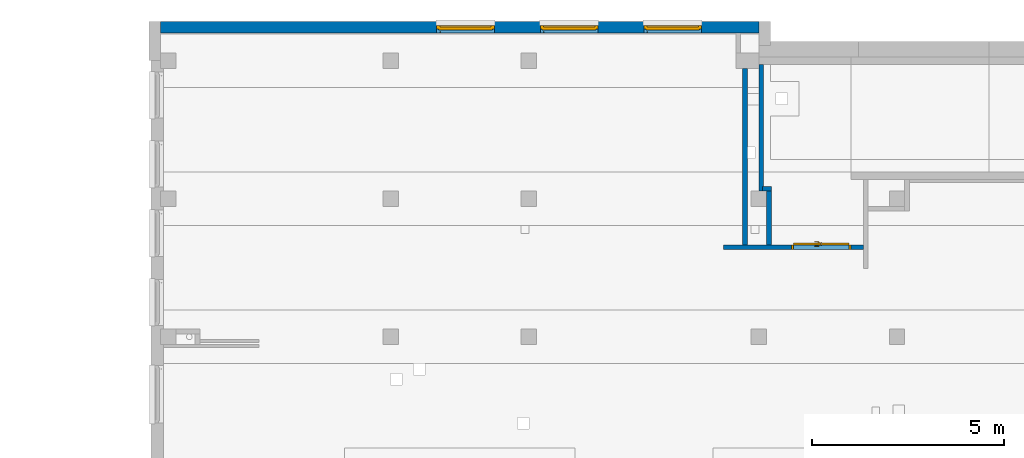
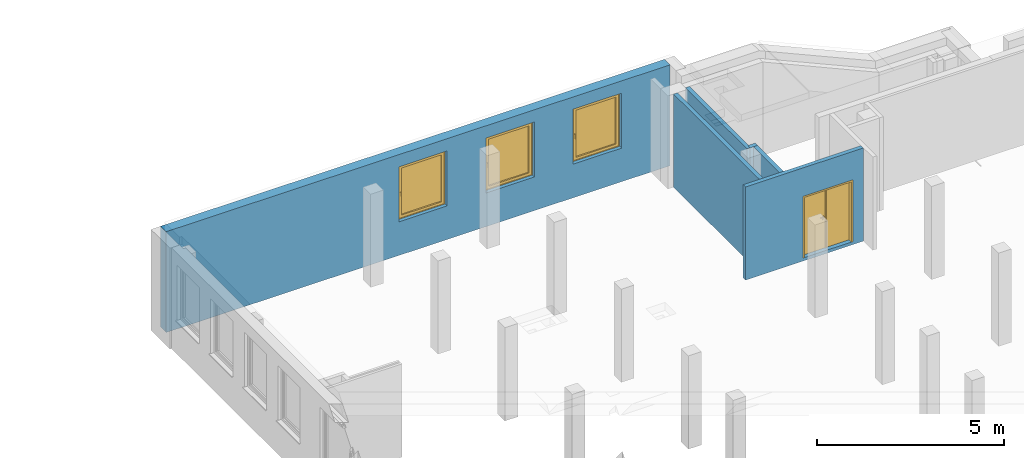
# One storey, part 10 of 27: 6 walls, 3 windows, 1 door, 4 openings.
"""IFC4 building model written with IfcOpenShell, lengths in metres."""

from ifc_helpers import new_model, entity, si_unit, converted_unit, derived_unit, frame, frame_2d, origin, origin_with_axes, place, context, subcontext, project, spatial, polyline, rectangle, outline, extrude, closed_shell, open_shell, surface_model, source, transform, mapped, material, layer, layer_set, layer_usage, type_object, element, fill, save


model = new_model("IFC4")

# Units and contexts
model_context = context("Model", 3, precision=1e-05, world=origin())
body_context = subcontext(model_context, "Body", "Model", "MODEL_VIEW")
ifc_project = project(units=[si_unit("LENGTHUNIT", "METRE"), si_unit("AREAUNIT", "SQUARE_METRE"), si_unit("VOLUMEUNIT", "CUBIC_METRE"), si_unit("MASSUNIT", "GRAM", prefix="KILO"), converted_unit("PLANEANGLEUNIT", "DEGREE", entity("IfcPlaneAngleMeasure", 0.0174532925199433), si_unit("PLANEANGLEUNIT", "RADIAN"), dimensions=[0, 0, 0, 0, 0, 0, 0]), derived_unit("THERMALTRANSMITTANCEUNIT", [(si_unit("POWERUNIT", "WATT"), 1), (si_unit("THERMODYNAMICTEMPERATUREUNIT", "KELVIN"), -1), (si_unit("LENGTHUNIT", "METRE"), -2)]), derived_unit("VOLUMETRICFLOWRATEUNIT", [(si_unit("LENGTHUNIT", "METRE"), 3), (converted_unit("TIMEUNIT", "hour", entity("IfcTimeMeasure", 3600.0), si_unit("TIMEUNIT", "SECOND"), dimensions=[0, 0, 1, 0, 0, 0, 0]), -1), (si_unit("LENGTHUNIT", "METRE"), -1)])], contexts=[model_context])

# Site, building, storey
site_placement = place(None, origin())
site = spatial("IfcSite", under=ifc_project, at=site_placement, Name="3. ASŘ", CompositionType="ELEMENT")
building_placement = place(site_placement, origin())
building = spatial("IfcBuilding", under=site, at=building_placement, Name="Pavilon C", CompositionType="ELEMENT")
storey_placement = place(building_placement, frame((0.0, 0.0, 10.5)))
storey = spatial("IfcBuildingStorey", under=building, at=storey_placement, Name="Půdorys 4.NP", CompositionType="ELEMENT", Elevation=10.5)

# Wall, openings, windows
ifc_material_1 = material(Name="ZELEZOBETONOVÁ KCE")
ifc_layer_1 = layer(ifc_material_1, 0.3)
ifc_layer_set_1 = layer_set([ifc_layer_1])
ifc_layer_usage_1 = layer_usage(ifc_layer_set_1, "AXIS2", "POSITIVE", 0.0)
wall_1_placement = place(storey_placement, frame((40.35, 33.42, -0.1), z_axis=(0.0, 0.0, 1.0), x_axis=(-1.0, 0.0, 0.0)))
wall_1 = element("IfcWall", 1, at=wall_1_placement, inside=storey, material=ifc_layer_usage_1, Name="ZELEZOBETONOVÁ KCE", context=body_context, shape_type="SweptSolid", body=[
    extrude(rectangle(XDim=15.6, YDim=0.3, at=frame_2d((7.8, 0.15), x_axis=(1.0, 0.0))), origin_with_axes(), (0.0, 0.0, 1.0), 3.3),
])
opening_1_placement = place(wall_1_placement, frame((6.9, 0.0, 1.1), z_axis=(0.0, 1.0, 0.0), x_axis=(0.0, 0.0, 1.0)))
opening_1 = element("IfcOpeningElement", 2, at=opening_1_placement, cuts=wall_1, Name="Okenní otvor", ObjectType="Opening", context=body_context, shape_type="SweptSolid", body=[
    extrude(outline(polyline([(0.0, 1.5), (1.8, 1.5), (1.8, 0.0), (0.0, 0.0), (0.0, 1.5)])), origin_with_axes(), (0.0, 0.0, 1.0), 0.3),
])
opening_2_placement = place(wall_1_placement, frame((4.2, 0.0, 1.1), z_axis=(0.0, 1.0, 0.0), x_axis=(0.0, 0.0, 1.0)))
opening_2 = element("IfcOpeningElement", 3, at=opening_2_placement, cuts=wall_1, Name="Okenní otvor", ObjectType="Opening", context=body_context, shape_type="SweptSolid", body=[
    extrude(outline(polyline([(0.0, 1.5), (1.8, 1.5), (1.8, 0.0), (0.0, 0.0), (0.0, 1.5)])), origin_with_axes(), (0.0, 0.0, 1.0), 0.3),
])
opening_3_placement = place(wall_1_placement, frame((1.5, 0.0, 1.1), z_axis=(0.0, 1.0, 0.0), x_axis=(0.0, 0.0, 1.0)))
opening_3 = element("IfcOpeningElement", 4, at=opening_3_placement, cuts=wall_1, Name="Okenní otvor", ObjectType="Opening", context=body_context, shape_type="SweptSolid", body=[
    extrude(outline(polyline([(0.0, 1.5), (1.8, 1.5), (1.8, 0.0), (0.0, 0.0), (0.0, 1.5)])), origin_with_axes(), (0.0, 0.0, 1.0), 0.3),
])
shared_shape_1 = source(origin_with_axes(), body_context, "Body", "SurfaceModel", [
    surface_model("IfcShellBasedSurfaceModel", [(0.0, 0.182, 1.8), (0.0, 0.182, -5.63337527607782e-18), (0.08, 0.182, -5.63337527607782e-18), (0.08, 0.182, 1.8), (0.0, 0.0899999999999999, 5.63337527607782e-18), (0.0, 0.0900000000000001, 1.8), (0.08, 0.0900000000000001, 1.8), (0.08, 0.0899999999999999, 5.63337527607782e-18)], [closed_shell([[[0, 1, 2, 3]], [[4, 5, 6, 7]], [[1, 0, 5, 4]], [[2, 1, 4, 7]], [[3, 2, 7, 6]], [[0, 3, 6, 5]]], orient=[[False], [False], [False], [False], [False], [False]])]),
    surface_model("IfcShellBasedSurfaceModel", [(1.42, 0.182, 1.8), (1.42, 0.182, -5.63337527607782e-18), (1.5, 0.182, -5.63337527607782e-18), (1.5, 0.182, 1.8), (1.42, 0.0899999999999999, 5.63337527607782e-18), (1.42, 0.0900000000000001, 1.8), (1.5, 0.0900000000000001, 1.8), (1.5, 0.0899999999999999, 5.63337527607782e-18)], [closed_shell([[[0, 1, 2, 3]], [[4, 5, 6, 7]], [[1, 0, 5, 4]], [[2, 1, 4, 7]], [[3, 2, 7, 6]], [[0, 3, 6, 5]]], orient=[[False], [False], [False], [False], [False], [False]])]),
    surface_model("IfcShellBasedSurfaceModel", [(0.08, 0.182, 0.08), (0.08, 0.182, -5.63337527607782e-18), (1.42, 0.182, -5.63337527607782e-18), (1.42, 0.182, 0.08), (0.08, 0.0899999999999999, 5.63337527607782e-18), (0.08, 0.0899999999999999, 0.08), (1.42, 0.0899999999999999, 0.08), (1.42, 0.0899999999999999, 5.63337527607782e-18)], [closed_shell([[[0, 1, 2, 3]], [[4, 5, 6, 7]], [[1, 0, 5, 4]], [[2, 1, 4, 7]], [[3, 2, 7, 6]], [[0, 3, 6, 5]]], orient=[[False], [False], [False], [False], [False], [False]])]),
    surface_model("IfcShellBasedSurfaceModel", [(0.08, 0.182, 1.8), (0.08, 0.182, 1.72), (1.42, 0.182, 1.72), (1.42, 0.182, 1.8), (0.08, 0.0900000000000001, 1.72), (0.08, 0.0900000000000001, 1.8), (1.42, 0.0900000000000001, 1.8), (1.42, 0.0900000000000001, 1.72)], [closed_shell([[[0, 1, 2, 3]], [[4, 5, 6, 7]], [[1, 0, 5, 4]], [[2, 1, 4, 7]], [[3, 2, 7, 6]], [[0, 3, 6, 5]]], orient=[[False], [False], [False], [False], [False], [False]])]),
    surface_model("IfcShellBasedSurfaceModel", [(0.05, 0.145, 1.75), (0.05, 0.145, 0.05), (0.13, 0.145, 0.05), (0.13, 0.145, 1.75), (0.05, 0.0599999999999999, 0.05), (0.05, 0.0600000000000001, 1.75), (0.13, 0.0600000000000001, 1.75), (0.13, 0.0599999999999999, 0.05)], [closed_shell([[[0, 1, 2, 3]], [[4, 5, 6, 7]], [[1, 0, 5, 4]], [[2, 1, 4, 7]], [[3, 2, 7, 6]], [[0, 3, 6, 5]]], orient=[[False], [False], [False], [False], [False], [False]])]),
    surface_model("IfcShellBasedSurfaceModel", [(1.37, 0.145, 1.75), (1.37, 0.145, 0.05), (1.45, 0.145, 0.05), (1.45, 0.145, 1.75), (1.37, 0.0599999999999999, 0.05), (1.37, 0.0600000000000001, 1.75), (1.45, 0.0600000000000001, 1.75), (1.45, 0.0599999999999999, 0.05)], [closed_shell([[[0, 1, 2, 3]], [[4, 5, 6, 7]], [[1, 0, 5, 4]], [[2, 1, 4, 7]], [[3, 2, 7, 6]], [[0, 3, 6, 5]]], orient=[[False], [False], [False], [False], [False], [False]])]),
    surface_model("IfcShellBasedSurfaceModel", [(0.13, 0.145, 0.13), (0.13, 0.145, 0.05), (1.37, 0.145, 0.05), (1.37, 0.145, 0.13), (0.13, 0.0599999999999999, 0.05), (0.13, 0.0599999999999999, 0.13), (1.37, 0.0599999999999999, 0.13), (1.37, 0.0599999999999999, 0.05)], [closed_shell([[[0, 1, 2, 3]], [[4, 5, 6, 7]], [[1, 0, 5, 4]], [[2, 1, 4, 7]], [[3, 2, 7, 6]], [[0, 3, 6, 5]]], orient=[[False], [False], [False], [False], [False], [False]])]),
    surface_model("IfcShellBasedSurfaceModel", [(0.13, 0.145, 1.75), (0.13, 0.145, 1.67), (1.37, 0.145, 1.67), (1.37, 0.145, 1.75), (0.13, 0.0600000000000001, 1.67), (0.13, 0.0600000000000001, 1.75), (1.37, 0.0600000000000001, 1.75), (1.37, 0.0600000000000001, 1.67)], [closed_shell([[[0, 1, 2, 3]], [[4, 5, 6, 7]], [[1, 0, 5, 4]], [[2, 1, 4, 7]], [[3, 2, 7, 6]], [[0, 3, 6, 5]]], orient=[[False], [False], [False], [False], [False], [False]])]),
    surface_model("IfcShellBasedSurfaceModel", [(0.0775, 0.06, 0.92), (0.0775, 0.06, 0.88), (0.1025, 0.06, 0.88), (0.1025, 0.06, 0.92), (0.0775, 0.05, 0.88), (0.0775, 0.05, 0.92), (0.1025, 0.05, 0.92), (0.1025, 0.05, 0.88)], [closed_shell([[[0, 1, 2, 3]], [[4, 5, 6, 7]], [[1, 0, 5, 4]], [[2, 1, 4, 7]], [[3, 2, 7, 6]], [[0, 3, 6, 5]]], orient=[[False], [False], [False], [False], [False], [False]])]),
    surface_model("IfcShellBasedSurfaceModel", [(0.1, 0.05, 0.9), (0.0986602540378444, 0.05, 0.905), (0.095, 0.05, 0.908660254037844), (0.09, 0.05, 0.91), (0.085, 0.05, 0.908660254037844), (0.0813397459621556, 0.05, 0.905), (0.08, 0.05, 0.9), (0.0813397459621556, 0.05, 0.895), (0.085, 0.05, 0.891339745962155), (0.09, 0.05, 0.89), (0.095, 0.05, 0.891339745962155), (0.0986602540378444, 0.05, 0.895), (0.1, 0.01, 0.9), (0.0986602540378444, 0.00500000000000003, 0.905), (0.095, 0.00133974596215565, 0.908660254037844), (0.09, 2.8421709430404e-17, 0.91), (0.085, 0.00133974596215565, 0.908660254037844), (0.0813397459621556, 0.00500000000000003, 0.905), (0.08, 0.01, 0.9), (0.0813397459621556, 0.015, 0.895), (0.085, 0.0186602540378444, 0.891339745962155), (0.09, 0.02, 0.89), (0.095, 0.0186602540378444, 0.891339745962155), (0.0986602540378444, 0.015, 0.895), (0.1, 0.01, 0.785), (0.0986602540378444, 0.005, 0.785), (0.095, 0.00133974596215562, 0.785), (0.09, 0.0, 0.785), (0.085, 0.00133974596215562, 0.785), (0.0813397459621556, 0.005, 0.785), (0.08, 0.01, 0.785), (0.0813397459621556, 0.015, 0.785), (0.085, 0.0186602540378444, 0.785), (0.09, 0.02, 0.785), (0.095, 0.0186602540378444, 0.785), (0.0986602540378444, 0.015, 0.785)], [open_shell([[[0, 1, 2, 3, 4, 5, 6, 7, 8, 9, 10, 11]], [[0, 12, 13, 1]], [[1, 13, 14, 2]], [[2, 14, 15, 3]], [[3, 15, 16, 4]], [[4, 16, 17, 5]], [[5, 17, 18, 6]], [[6, 18, 19, 7]], [[7, 19, 20, 8]], [[8, 20, 21, 9]], [[9, 21, 22, 10]], [[10, 22, 23, 11]], [[11, 23, 12, 0]], [[12, 24, 25, 13]], [[13, 25, 26, 14]], [[14, 26, 27, 15]], [[15, 27, 28, 16]], [[16, 28, 29, 17]], [[17, 29, 30, 18]], [[18, 30, 31, 19]], [[19, 31, 32, 20]], [[20, 32, 33, 21]], [[21, 33, 34, 22]], [[22, 34, 35, 23]], [[23, 35, 24, 12]]], orient=[[False], [False], [False], [False], [False], [False], [False], [False], [False], [False], [False], [False], [False], [False], [False], [False], [False], [False], [False], [False], [False], [False], [False], [False], [False]])]),
    surface_model("IfcShellBasedSurfaceModel", [(0.13, 0.1025, 0.13), (1.37, 0.1025, 0.13), (1.37, 0.1025, 1.67), (0.13, 0.1025, 1.67)], [open_shell([[[0, 1, 2, 3]]], orient=[[False]])]),
])
window_1_placement = place(opening_1_placement, frame((0.0, 1.5, 0.282), z_axis=(1.0, 0.0, 0.0), x_axis=(0.0, -0.999999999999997, 2.4492935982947e-16)))
window_1 = element("IfcWindow", 5, at=window_1_placement, inside=storey, Name="O06", OverallHeight=1.8, OverallWidth=1.5, PartitioningType="USERDEFINED", PredefinedType="WINDOW", context=body_context, shape_type="MappedRepresentation", body=[
    mapped(shared_shape_1, transform((0.0, 0.0, 0.0), x_axis=(1.0, 0.0, 0.0), y_axis=(0.0, 1.0, 0.0), z_axis=(0.0, 0.0, 1.0), scale=0.999999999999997)),
])
fill(opening_1, window_1)
window_2_placement = place(opening_2_placement, frame((0.0, 1.5, 0.282), z_axis=(1.0, 0.0, 0.0), x_axis=(0.0, -1.0, 2.44929359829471e-16)))
window_2 = element("IfcWindow", 6, at=window_2_placement, inside=storey, Name="O06", OverallHeight=1.8, OverallWidth=1.5, PartitioningType="USERDEFINED", PredefinedType="WINDOW", context=body_context, shape_type="MappedRepresentation", body=[
    mapped(shared_shape_1, transform((0.0, 0.0, 0.0), x_axis=(1.0, 0.0, 0.0), y_axis=(0.0, 1.0, 0.0), z_axis=(0.0, 0.0, 1.0), scale=1.0)),
])
fill(opening_2, window_2)
window_3_placement = place(opening_3_placement, frame((0.0, 1.5, 0.282), z_axis=(1.0, 0.0, 0.0), x_axis=(0.0, -1.0, 2.44929359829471e-16)))
window_3 = element("IfcWindow", 7, at=window_3_placement, inside=storey, Name="O06", OverallHeight=1.8, OverallWidth=1.5, PartitioningType="USERDEFINED", PredefinedType="WINDOW", context=body_context, shape_type="MappedRepresentation", body=[
    mapped(shared_shape_1, transform((0.0, 0.0, 0.0), x_axis=(1.0, 0.0, 0.0), y_axis=(0.0, 1.0, 0.0), z_axis=(0.0, 0.0, 1.0), scale=1.0)),
])
fill(opening_3, window_3)

# Wall
ifc_material_2 = material(Name="ZDIVO Z CDm")
ifc_layer_2 = layer(ifc_material_2, 0.125)
ifc_layer_set_2 = layer_set([ifc_layer_2])
ifc_layer_usage_2 = layer_usage(ifc_layer_set_2, "AXIS2", "POSITIVE", 0.0)
wall_2_placement = place(storey_placement, frame((40.4449417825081, 29.0, -0.1)))
element("IfcWall", 8, at=wall_2_placement, inside=storey, material=ifc_layer_usage_2, Name="ZDIVO Z CDm", context=body_context, shape_type="SweptSolid", body=[
    extrude(rectangle(XDim=0.230058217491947, YDim=0.125, at=frame_2d((0.115029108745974, 0.0625), x_axis=(1.0, 0.0))), origin_with_axes(), (0.0, 0.0, 1.0), 3.05),
])

# Wall, opening, door
ifc_material_3 = material(Name="ZDIVO Z CDm")
ifc_layer_3 = layer(ifc_material_3, 0.125)
ifc_layer_set_3 = layer_set([ifc_layer_3])
ifc_layer_usage_3 = layer_usage(ifc_layer_set_3, "AXIS2", "POSITIVE", 0.0)
wall_3_placement = place(storey_placement, frame((43.075, 27.6, -0.1), z_axis=(0.0, 0.0, 1.0), x_axis=(-1.0, 0.0, 0.0)))
wall_3 = element("IfcWall", 9, at=wall_3_placement, inside=storey, material=ifc_layer_usage_3, Name="ZDIVO Z CDm", context=body_context, shape_type="SweptSolid", body=[
    extrude(rectangle(XDim=3.65, YDim=0.125, at=frame_2d((1.825, 0.0625), x_axis=(1.0, 0.0))), origin_with_axes(), (0.0, 0.0, 1.0), 3.05),
])
opening_4_placement = place(wall_3_placement, frame((0.325, 0.0, 0.1), z_axis=(0.0, 1.0, 0.0), x_axis=(0.0, 0.0, 1.0)))
opening_4 = element("IfcOpeningElement", 10, at=opening_4_placement, cuts=wall_3, Name="Dveřní otvor", ObjectType="Opening", context=body_context, shape_type="SweptSolid", body=[
    extrude(outline(polyline([(0.0, 1.55), (2.02, 1.55), (2.02, 0.0), (0.0, 0.0), (0.0, 1.55)])), origin_with_axes(), (0.0, 0.0, 1.0), 0.125),
])
door_type = type_object("IfcDoorType", Name="D501", OperationType="NOTDEFINED", ParameterTakesPrecedence=False, PredefinedType="DOOR")
shared_shape_2 = source(origin_with_axes(), body_context, "Body", "SurfaceModel", [
    surface_model("IfcShellBasedSurfaceModel", [(0.0, 0.125, 2.02), (0.0, 0.125, -7.65404249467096e-18), (0.05, 0.125, -7.65404249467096e-18), (0.05, 0.125, 2.02), (0.0, 0.0, 7.65404249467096e-18), (0.0, 2.41584530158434e-16, 2.02), (0.05, 2.41584530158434e-16, 2.02), (0.05, 0.0, 7.65404249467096e-18)], [closed_shell([[[0, 1, 2, 3]], [[4, 5, 6, 7]], [[1, 0, 5, 4]], [[2, 1, 4, 7]], [[3, 2, 7, 6]], [[0, 3, 6, 5]]], orient=[[False], [False], [False], [False], [False], [False]])]),
    surface_model("IfcShellBasedSurfaceModel", [(1.5, 0.125, 2.02), (1.5, 0.125, -7.65404249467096e-18), (1.55, 0.125, -7.65404249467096e-18), (1.55, 0.125, 2.02), (1.5, 0.0, 7.65404249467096e-18), (1.5, 2.41584530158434e-16, 2.02), (1.55, 2.41584530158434e-16, 2.02), (1.55, 0.0, 7.65404249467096e-18)], [closed_shell([[[0, 1, 2, 3]], [[4, 5, 6, 7]], [[1, 0, 5, 4]], [[2, 1, 4, 7]], [[3, 2, 7, 6]], [[0, 3, 6, 5]]], orient=[[False], [False], [False], [False], [False], [False]])]),
    surface_model("IfcShellBasedSurfaceModel", [(0.05, 0.125, 2.02), (0.05, 0.125, 1.97), (1.5, 0.125, 1.97), (1.5, 0.125, 2.02), (0.05, 2.41584530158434e-16, 1.97), (0.05, 2.41584530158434e-16, 2.02), (1.5, 2.41584530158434e-16, 2.02), (1.5, 2.41584530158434e-16, 1.97)], [closed_shell([[[0, 1, 2, 3]], [[4, 5, 6, 7]], [[1, 0, 5, 4]], [[2, 1, 4, 7]], [[3, 2, 7, 6]], [[0, 3, 6, 5]]], orient=[[False], [False], [False], [False], [False], [False]])]),
    surface_model("IfcShellBasedSurfaceModel", [(0.05, 0.165, 1.97), (0.05, 0.165, -1.25526296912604e-17), (0.7745, 0.165, -1.25526296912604e-17), (0.7745, 0.165, 1.97), (0.05, 0.125, -7.65404249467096e-18), (0.05, 0.125, 1.97), (0.7745, 0.125, 1.97), (0.7745, 0.125, -7.65404249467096e-18)], [closed_shell([[[0, 1, 2, 3]], [[4, 5, 6, 7]], [[1, 0, 5, 4]], [[2, 1, 4, 7]], [[3, 2, 7, 6]], [[0, 3, 6, 5]]], orient=[[False], [False], [False], [False], [False], [False]])]),
    surface_model("IfcShellBasedSurfaceModel", [(0.7545, 0.165, 1.97), (0.7945, 0.165, 1.97), (0.7945, 0.165, -1.25526296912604e-17), (0.7545, 0.165, -1.25526296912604e-17), (0.7545, 0.185, -1.50019232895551e-17), (0.7945, 0.185, -1.50019232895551e-17), (0.7945, 0.185, 1.97), (0.7545, 0.185, 1.97)], [closed_shell([[[0, 1, 2, 3]], [[4, 5, 6, 7]], [[3, 4, 7, 0]], [[2, 5, 4, 3]], [[1, 6, 5, 2]], [[0, 7, 6, 1]]], orient=[[False], [False], [False], [False], [False], [False]])]),
    surface_model("IfcShellBasedSurfaceModel", [(0.733315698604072, 0.125, 0.93625), (0.737, 0.125, 0.95), (0.733315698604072, 0.125, 0.96375), (0.72325, 0.125, 0.973815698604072), (0.7095, 0.125, 0.9775), (0.69575, 0.125, 0.973815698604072), (0.685684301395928, 0.125, 0.96375), (0.682, 0.125, 0.95), (0.685684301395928, 0.125, 0.93625), (0.69575, 0.125, 0.926184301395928), (0.7095, 0.125, 0.9225), (0.72325, 0.125, 0.926184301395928), (0.737, 0.1125, 0.95), (0.733315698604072, 0.1125, 0.93625), (0.72325, 0.1125, 0.926184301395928), (0.7095, 0.1125, 0.9225), (0.69575, 0.1125, 0.926184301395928), (0.685684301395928, 0.1125, 0.93625), (0.682, 0.1125, 0.95), (0.685684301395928, 0.1125, 0.96375), (0.69575, 0.1125, 0.973815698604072), (0.7095, 0.1125, 0.9775), (0.72325, 0.1125, 0.973815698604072), (0.733315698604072, 0.1125, 0.96375)], [closed_shell([[[0, 1, 2, 3, 4, 5, 6, 7, 8, 9, 10, 11]], [[12, 13, 14, 15, 16, 17, 18, 19, 20, 21, 22, 23]], [[1, 0, 13, 12]], [[2, 1, 12, 23]], [[3, 2, 23, 22]], [[4, 3, 22, 21]], [[5, 4, 21, 20]], [[6, 5, 20, 19]], [[7, 6, 19, 18]], [[8, 7, 18, 17]], [[9, 8, 17, 16]], [[10, 9, 16, 15]], [[11, 10, 15, 14]], [[0, 11, 14, 13]]], orient=[[False], [False], [False], [False], [False], [False], [False], [False], [False], [False], [False], [False], [False], [False]])]),
    surface_model("IfcShellBasedSurfaceModel", [(0.733315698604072, 0.125, 1.03625), (0.737, 0.125, 1.05), (0.733315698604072, 0.125, 1.06375), (0.72325, 0.125, 1.07381569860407), (0.7095, 0.125, 1.0775), (0.69575, 0.125, 1.07381569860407), (0.685684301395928, 0.125, 1.06375), (0.682, 0.125, 1.05), (0.685684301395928, 0.125, 1.03625), (0.69575, 0.125, 1.02618430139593), (0.7095, 0.125, 1.0225), (0.72325, 0.125, 1.02618430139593), (0.737, 0.1125, 1.05), (0.733315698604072, 0.1125, 1.03625), (0.72325, 0.1125, 1.02618430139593), (0.7095, 0.1125, 1.0225), (0.69575, 0.1125, 1.02618430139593), (0.685684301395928, 0.1125, 1.03625), (0.682, 0.1125, 1.05), (0.685684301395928, 0.1125, 1.06375), (0.69575, 0.1125, 1.07381569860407), (0.7095, 0.1125, 1.0775), (0.72325, 0.1125, 1.07381569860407), (0.733315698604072, 0.1125, 1.06375)], [closed_shell([[[0, 1, 2, 3, 4, 5, 6, 7, 8, 9, 10, 11]], [[12, 13, 14, 15, 16, 17, 18, 19, 20, 21, 22, 23]], [[1, 0, 13, 12]], [[2, 1, 12, 23]], [[3, 2, 23, 22]], [[4, 3, 22, 21]], [[5, 4, 21, 20]], [[6, 5, 20, 19]], [[7, 6, 19, 18]], [[8, 7, 18, 17]], [[9, 8, 17, 16]], [[10, 9, 16, 15]], [[11, 10, 15, 14]], [[0, 11, 14, 13]]], orient=[[False], [False], [False], [False], [False], [False], [False], [False], [False], [False], [False], [False], [False], [False]])]),
    surface_model("IfcShellBasedSurfaceModel", [(0.7095, 0.125, 1.06), (0.7045, 0.125, 1.05866025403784), (0.700839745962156, 0.125, 1.055), (0.6995, 0.125, 1.05), (0.700839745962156, 0.125, 1.045), (0.7045, 0.125, 1.04133974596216), (0.7095, 0.125, 1.04), (0.7145, 0.125, 1.04133974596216), (0.718160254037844, 0.125, 1.045), (0.7195, 0.125, 1.05), (0.718160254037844, 0.125, 1.055), (0.7145, 0.125, 1.05866025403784), (0.7145, 0.0800000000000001, 1.05866025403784), (0.7095, 0.0850000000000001, 1.06), (0.718160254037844, 0.0763397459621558, 1.055), (0.7195, 0.0750000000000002, 1.05), (0.718160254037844, 0.0763397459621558, 1.045), (0.7145, 0.0800000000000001, 1.04133974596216), (0.7095, 0.0850000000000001, 1.04), (0.7045, 0.0900000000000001, 1.04133974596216), (0.700839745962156, 0.0936602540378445, 1.045), (0.6995, 0.0950000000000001, 1.05), (0.700839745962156, 0.0936602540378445, 1.055), (0.7045, 0.0900000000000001, 1.05866025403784), (0.5945, 0.0800000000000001, 1.05866025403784), (0.5945, 0.0850000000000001, 1.06), (0.5945, 0.0763397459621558, 1.055), (0.5945, 0.0750000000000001, 1.05), (0.5945, 0.0763397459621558, 1.045), (0.5945, 0.0800000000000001, 1.04133974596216), (0.5945, 0.0850000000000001, 1.04), (0.5945, 0.0900000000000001, 1.04133974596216), (0.5945, 0.0936602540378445, 1.045), (0.5945, 0.0950000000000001, 1.05), (0.5945, 0.0936602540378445, 1.055), (0.5945, 0.0900000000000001, 1.05866025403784)], [open_shell([[[0, 1, 2, 3, 4, 5, 6, 7, 8, 9, 10, 11]], [[0, 11, 12, 13]], [[11, 10, 14, 12]], [[10, 9, 15, 14]], [[9, 8, 16, 15]], [[8, 7, 17, 16]], [[7, 6, 18, 17]], [[6, 5, 19, 18]], [[5, 4, 20, 19]], [[4, 3, 21, 20]], [[3, 2, 22, 21]], [[2, 1, 23, 22]], [[1, 0, 13, 23]], [[13, 12, 24, 25]], [[12, 14, 26, 24]], [[14, 15, 27, 26]], [[15, 16, 28, 27]], [[16, 17, 29, 28]], [[17, 18, 30, 29]], [[18, 19, 31, 30]], [[19, 20, 32, 31]], [[20, 21, 33, 32]], [[21, 22, 34, 33]], [[22, 23, 35, 34]], [[23, 13, 25, 35]]], orient=[[False], [False], [False], [False], [False], [False], [False], [False], [False], [False], [False], [False], [False], [False], [False], [False], [False], [False], [False], [False], [False], [False], [False], [False], [False]])]),
    surface_model("IfcShellBasedSurfaceModel", [(0.733315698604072, 0.165, 0.93625), (0.72325, 0.165, 0.926184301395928), (0.7095, 0.165, 0.9225), (0.69575, 0.165, 0.926184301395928), (0.685684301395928, 0.165, 0.93625), (0.682, 0.165, 0.95), (0.685684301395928, 0.165, 0.96375), (0.69575, 0.165, 0.973815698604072), (0.7095, 0.165, 0.9775), (0.72325, 0.165, 0.973815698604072), (0.733315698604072, 0.165, 0.96375), (0.737, 0.165, 0.95), (0.737, 0.1775, 0.95), (0.733315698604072, 0.1775, 0.96375), (0.72325, 0.1775, 0.973815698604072), (0.7095, 0.1775, 0.9775), (0.69575, 0.1775, 0.973815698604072), (0.685684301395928, 0.1775, 0.96375), (0.682, 0.1775, 0.95), (0.685684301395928, 0.1775, 0.93625), (0.69575, 0.1775, 0.926184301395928), (0.7095, 0.1775, 0.9225), (0.72325, 0.1775, 0.926184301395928), (0.733315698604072, 0.1775, 0.93625)], [closed_shell([[[0, 1, 2, 3, 4, 5, 6, 7, 8, 9, 10, 11]], [[12, 13, 14, 15, 16, 17, 18, 19, 20, 21, 22, 23]], [[11, 12, 23, 0]], [[10, 13, 12, 11]], [[9, 14, 13, 10]], [[8, 15, 14, 9]], [[7, 16, 15, 8]], [[6, 17, 16, 7]], [[5, 18, 17, 6]], [[4, 19, 18, 5]], [[3, 20, 19, 4]], [[2, 21, 20, 3]], [[1, 22, 21, 2]], [[0, 23, 22, 1]]], orient=[[False], [False], [False], [False], [False], [False], [False], [False], [False], [False], [False], [False], [False], [False]])]),
    surface_model("IfcShellBasedSurfaceModel", [(0.733315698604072, 0.165, 1.03625), (0.72325, 0.165, 1.02618430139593), (0.7095, 0.165, 1.0225), (0.69575, 0.165, 1.02618430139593), (0.685684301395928, 0.165, 1.03625), (0.682, 0.165, 1.05), (0.685684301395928, 0.165, 1.06375), (0.69575, 0.165, 1.07381569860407), (0.7095, 0.165, 1.0775), (0.72325, 0.165, 1.07381569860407), (0.733315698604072, 0.165, 1.06375), (0.737, 0.165, 1.05), (0.737, 0.1775, 1.05), (0.733315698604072, 0.1775, 1.06375), (0.72325, 0.1775, 1.07381569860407), (0.7095, 0.1775, 1.0775), (0.69575, 0.1775, 1.07381569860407), (0.685684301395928, 0.1775, 1.06375), (0.682, 0.1775, 1.05), (0.685684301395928, 0.1775, 1.03625), (0.69575, 0.1775, 1.02618430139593), (0.7095, 0.1775, 1.0225), (0.72325, 0.1775, 1.02618430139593), (0.733315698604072, 0.1775, 1.03625)], [closed_shell([[[0, 1, 2, 3, 4, 5, 6, 7, 8, 9, 10, 11]], [[12, 13, 14, 15, 16, 17, 18, 19, 20, 21, 22, 23]], [[11, 12, 23, 0]], [[10, 13, 12, 11]], [[9, 14, 13, 10]], [[8, 15, 14, 9]], [[7, 16, 15, 8]], [[6, 17, 16, 7]], [[5, 18, 17, 6]], [[4, 19, 18, 5]], [[3, 20, 19, 4]], [[2, 21, 20, 3]], [[1, 22, 21, 2]], [[0, 23, 22, 1]]], orient=[[False], [False], [False], [False], [False], [False], [False], [False], [False], [False], [False], [False], [False], [False]])]),
    surface_model("IfcShellBasedSurfaceModel", [(0.7095, 0.165, 1.06), (0.7145, 0.165, 1.05866025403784), (0.718160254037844, 0.165, 1.055), (0.7195, 0.165, 1.05), (0.718160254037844, 0.165, 1.045), (0.7145, 0.165, 1.04133974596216), (0.7095, 0.165, 1.04), (0.7045, 0.165, 1.04133974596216), (0.700839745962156, 0.165, 1.045), (0.6995, 0.165, 1.05), (0.700839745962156, 0.165, 1.055), (0.7045, 0.165, 1.05866025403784), (0.7095, 0.205, 1.06), (0.7145, 0.21, 1.05866025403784), (0.718160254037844, 0.213660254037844, 1.055), (0.7195, 0.215, 1.05), (0.718160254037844, 0.213660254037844, 1.045), (0.7145, 0.21, 1.04133974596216), (0.7095, 0.205, 1.04), (0.7045, 0.2, 1.04133974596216), (0.700839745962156, 0.196339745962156, 1.045), (0.6995, 0.195, 1.05), (0.700839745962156, 0.196339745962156, 1.055), (0.7045, 0.2, 1.05866025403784), (0.5945, 0.205, 1.06), (0.5945, 0.21, 1.05866025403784), (0.5945, 0.213660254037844, 1.055), (0.5945, 0.215, 1.05), (0.5945, 0.213660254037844, 1.045), (0.5945, 0.21, 1.04133974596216), (0.5945, 0.205, 1.04), (0.5945, 0.2, 1.04133974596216), (0.5945, 0.196339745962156, 1.045), (0.5945, 0.195, 1.05), (0.5945, 0.196339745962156, 1.055), (0.5945, 0.2, 1.05866025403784)], [open_shell([[[0, 1, 2, 3, 4, 5, 6, 7, 8, 9, 10, 11]], [[0, 12, 13, 1]], [[1, 13, 14, 2]], [[2, 14, 15, 3]], [[3, 15, 16, 4]], [[4, 16, 17, 5]], [[5, 17, 18, 6]], [[6, 18, 19, 7]], [[7, 19, 20, 8]], [[8, 20, 21, 9]], [[9, 21, 22, 10]], [[10, 22, 23, 11]], [[11, 23, 12, 0]], [[12, 24, 25, 13]], [[13, 25, 26, 14]], [[14, 26, 27, 15]], [[15, 27, 28, 16]], [[16, 28, 29, 17]], [[17, 29, 30, 18]], [[18, 30, 31, 19]], [[19, 31, 32, 20]], [[20, 32, 33, 21]], [[21, 33, 34, 22]], [[22, 34, 35, 23]], [[23, 35, 24, 12]]], orient=[[False], [False], [False], [False], [False], [False], [False], [False], [False], [False], [False], [False], [False], [False], [False], [False], [False], [False], [False], [False], [False], [False], [False], [False], [False]])]),
    surface_model("IfcShellBasedSurfaceModel", [(0.7755, 0.165, 1.97), (0.7755, 0.165, -1.25526296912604e-17), (1.5, 0.165, -1.25526296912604e-17), (1.5, 0.165, 1.97), (0.7755, 0.125, -7.65404249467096e-18), (0.7755, 0.125, 1.97), (1.5, 0.125, 1.97), (1.5, 0.125, -7.65404249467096e-18)], [closed_shell([[[0, 1, 2, 3]], [[4, 5, 6, 7]], [[1, 0, 5, 4]], [[2, 1, 4, 7]], [[3, 2, 7, 6]], [[0, 3, 6, 5]]], orient=[[False], [False], [False], [False], [False], [False]])]),
    surface_model("IfcShellBasedSurfaceModel", [(0.7555, 0.125, 1.97), (0.7555, 0.125, -7.65404249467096e-18), (0.7955, 0.125, -7.65404249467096e-18), (0.7955, 0.125, 1.97), (0.7555, 0.105, -5.20474889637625e-18), (0.7555, 0.105, 1.97), (0.7955, 0.105, 1.97), (0.7955, 0.105, -5.20474889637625e-18)], [closed_shell([[[0, 1, 2, 3]], [[4, 5, 6, 7]], [[1, 0, 5, 4]], [[2, 1, 4, 7]], [[3, 2, 7, 6]], [[0, 3, 6, 5]]], orient=[[False], [False], [False], [False], [False], [False]])]),
])
door_placement = place(opening_4_placement, frame((0.0, 1.55, 0.125), z_axis=(1.0, 0.0, 0.0), x_axis=(0.0, -1.0, 2.44929359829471e-16)))
door = element("IfcDoor", 11, at=door_placement, inside=storey, type_object=door_type, Name="D501", OverallHeight=2.02, OverallWidth=1.55, context=body_context, shape_type="MappedRepresentation", body=[
    mapped(shared_shape_2, transform((0.0, 0.0, 0.0), x_axis=(1.0, 0.0, 0.0), y_axis=(0.0, 1.0, 0.0), z_axis=(0.0, 0.0, 1.0), scale=1.0)),
])
fill(opening_4, door)

# Walls
ifc_material_4 = material(Name="ZDIVO Z CDm")
ifc_layer_4 = layer(ifc_material_4, 0.125)
ifc_layer_set_4 = layer_set([ifc_layer_4])
ifc_layer_usage_4 = layer_usage(ifc_layer_set_4, "AXIS2", "POSITIVE", 0.0)
wall_4_placement = place(storey_placement, frame((40.55, 29.0, -0.1), z_axis=(0.0, 0.0, 1.0), x_axis=(0.0, -1.0, 0.0)))
element("IfcWall", 12, at=wall_4_placement, inside=storey, material=ifc_layer_usage_4, Name="ZDIVO Z CDm", context=body_context, shape_type="SweptSolid", body=[
    extrude(rectangle(XDim=1.40000000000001, YDim=0.125, at=frame_2d((0.700000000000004, 0.0625), x_axis=(1.0, 0.0))), origin_with_axes(), (0.0, 0.0, 1.0), 3.05),
])
ifc_material_5 = material(Name="ZDIVO Z CDm")
ifc_layer_5 = layer(ifc_material_5, 0.125)
ifc_layer_set_5 = layer_set([ifc_layer_5])
ifc_layer_usage_5 = layer_usage(ifc_layer_set_5, "AXIS2", "POSITIVE", 0.0)
wall_5_placement = place(storey_placement, frame((40.05, 27.6, -0.1), z_axis=(0.0, 0.0, 1.0), x_axis=(0.0, 1.0, 0.0)))
element("IfcWall", 13, at=wall_5_placement, inside=storey, material=ifc_layer_usage_5, Name="ZDIVO Z CDm", context=body_context, shape_type="SweptSolid", body=[
    extrude(rectangle(XDim=4.6, YDim=0.125, at=frame_2d((2.3, 0.0625), x_axis=(1.0, 0.0))), origin_with_axes(), (0.0, 0.0, 1.0), 3.05),
])
ifc_material_6 = material(Name="ZDIVO Z CDm")
ifc_layer_6 = layer(ifc_material_6, 0.125)
ifc_layer_set_6 = layer_set([ifc_layer_6])
ifc_layer_usage_6 = layer_usage(ifc_layer_set_6, "AXIS2", "POSITIVE", 0.0)
wall_6_placement = place(storey_placement, frame((40.35, 32.3, -0.1), z_axis=(0.0, 0.0, 1.0), x_axis=(0.0, -1.0, 0.0)))
element("IfcWall", 14, at=wall_6_placement, inside=storey, material=ifc_layer_usage_6, Name="ZDIVO Z CDm", context=body_context, shape_type="SweptSolid", body=[
    extrude(outline(polyline([(-3.29999999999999, 0.0), (0.0, 0.0), (0.0, 0.0949417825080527), (-0.125, 0.0949417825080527), (-0.125, 0.125), (-3.29999999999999, 0.125), (-3.29999999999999, 0.0)])), frame((3.29999999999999, 0.0, 0.0), z_axis=(0.0, 0.0, 1.0), x_axis=(1.0, 0.0, 0.0)), (0.0, 0.0, 1.0), 3.05),
])

save(model, "model.ifc")
